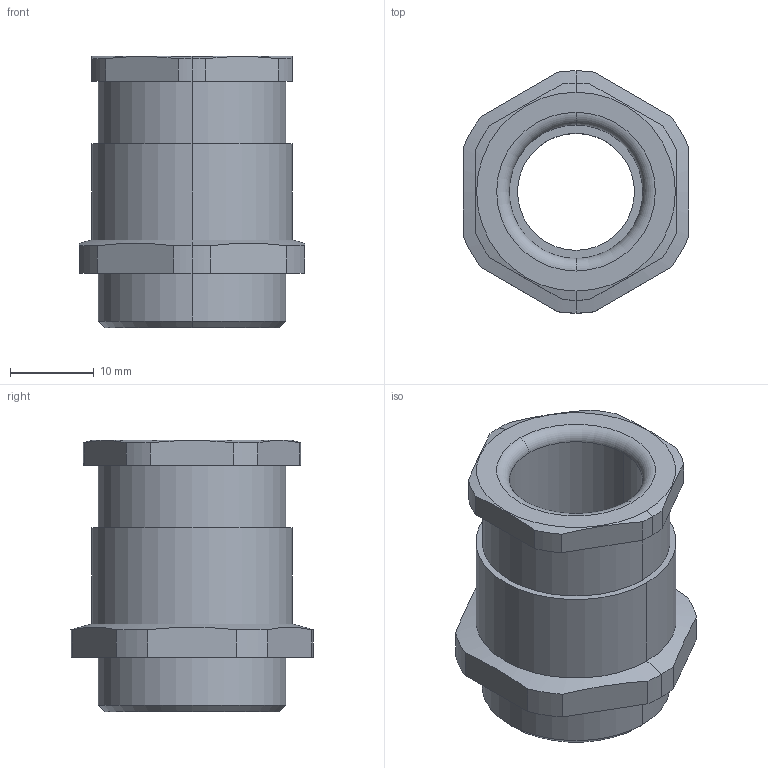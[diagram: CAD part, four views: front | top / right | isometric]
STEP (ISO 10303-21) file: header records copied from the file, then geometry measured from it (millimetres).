
FILE_DESCRIPTION (( 'STEP AP203' ), '1' );
FILE_NAME ('27.616.STEP', '2006-10-23T08:36:29', ( ' ' ), ( '' ), 'SwSTEP 2.0', 'SolidWorks 2005278', '' );
FILE_SCHEMA (( 'CONFIG_CONTROL_DESIGN' ));
Length unit declared in the file: millimetre
Products named in the file (1): 27.616
Bounding box: 27 x 29 x 32.5 mm (x, y, z)
Volume: 8796 mm3; surface area: 4977.5 mm2
Topology: 1 solids, 1 shells, 92 faces, 238 edges, 156 vertices
Faces by surface type: plane 56, cylinder 26, cone 8, torus 2
Entity records: 2913 total; most frequent: CARTESIAN_POINT 539, DIRECTION 478, ORIENTED_EDGE 476, EDGE_CURVE 238, VECTOR 160, LINE 160, AXIS2_PLACEMENT_3D 159, VERTEX_POINT 156
